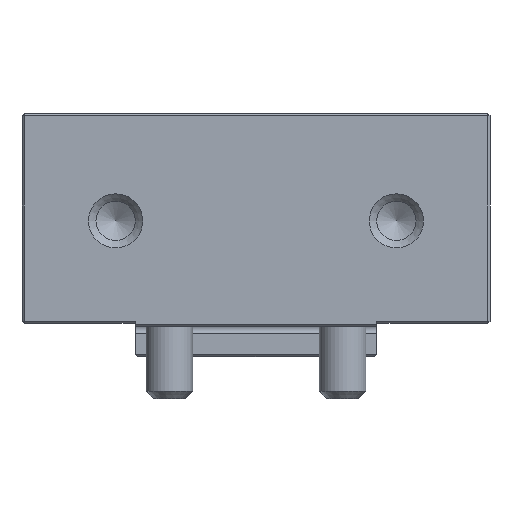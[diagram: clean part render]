
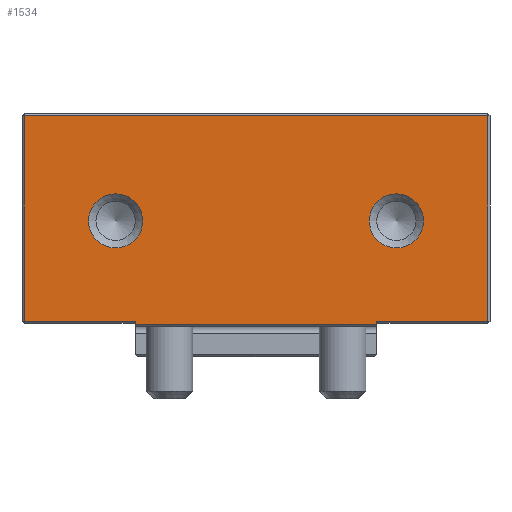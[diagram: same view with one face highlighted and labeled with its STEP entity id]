
A CAD part, front view. The second image highlights one B-rep face of the part: STEP entity #1534.
In plain terms, the highlighted planar face has unit normal (0, -1, 0).
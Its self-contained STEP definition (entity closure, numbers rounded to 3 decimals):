
#1534=ADVANCED_FACE('',(#4082,#4084,#4086),#4088,.T.);
#4082=FACE_BOUND('',#4083,.T.);
#4083=EDGE_LOOP('',(#5749,#5750,#5751,#5752,#5753,#5754,#5755,#5756));
#4084=FACE_BOUND('',#4085,.T.);
#4085=EDGE_LOOP('',(#5757));
#4086=FACE_BOUND('',#4087,.T.);
#4087=EDGE_LOOP('',(#5758));
#4088=PLANE('',#4089);
#4089=AXIS2_PLACEMENT_3D('',#4090,#4091,#4092);
#4090=CARTESIAN_POINT('',(-50.,-32.,0.));
#4091=DIRECTION('',(0.,-1.,0.));
#4092=DIRECTION('',(1.,0.,0.));
#5749=ORIENTED_EDGE('',*,*,#6512,.F.);
#5750=ORIENTED_EDGE('',*,*,#6513,.T.);
#5751=ORIENTED_EDGE('',*,*,#6497,.T.);
#5752=ORIENTED_EDGE('',*,*,#6483,.T.);
#5753=ORIENTED_EDGE('',*,*,#6501,.T.);
#5754=ORIENTED_EDGE('',*,*,#6514,.T.);
#5755=ORIENTED_EDGE('',*,*,#6515,.T.);
#5756=ORIENTED_EDGE('',*,*,#6516,.F.);
#5757=ORIENTED_EDGE('',*,*,#6517,.T.);
#5758=ORIENTED_EDGE('',*,*,#6518,.T.);
#6483=EDGE_CURVE('',#7206,#7207,#7208,.F.);
#6497=EDGE_CURVE('',#7212,#7206,#7233,.F.);
#6501=EDGE_CURVE('',#7207,#7237,#7240,.F.);
#6512=EDGE_CURVE('',#7260,#7261,#7262,.T.);
#6513=EDGE_CURVE('',#7260,#7212,#7263,.F.);
#6514=EDGE_CURVE('',#7237,#7264,#7265,.F.);
#6515=EDGE_CURVE('',#7264,#7266,#7267,.T.);
#6516=EDGE_CURVE('',#7261,#7266,#7268,.T.);
#6517=EDGE_CURVE('',#7269,#7269,#7270,.F.);
#6518=EDGE_CURVE('',#7271,#7271,#7272,.F.);
#7206=VERTEX_POINT('',#9663);
#7207=VERTEX_POINT('',#9664);
#7208=LINE('',#9665,#9666);
#7212=VERTEX_POINT('',#9675);
#7233=LINE('',#9720,#9721);
#7237=VERTEX_POINT('',#9731);
#7240=LINE('',#9736,#9737);
#7260=VERTEX_POINT('',#9780);
#7261=VERTEX_POINT('',#9781);
#7262=LINE('',#9782,#9783);
#7263=LINE('',#9785,#9786);
#7264=VERTEX_POINT('',#9788);
#7265=LINE('',#9789,#9790);
#7266=VERTEX_POINT('',#9792);
#7267=LINE('',#9793,#9794);
#7268=LINE('',#9796,#9797);
#7269=VERTEX_POINT('',#9799);
#7270=CIRCLE('',#9800,5.788);
#7271=VERTEX_POINT('',#9804);
#7272=CIRCLE('',#9805,5.788);
#9663=CARTESIAN_POINT('',(-25.75,-32.,6.9));
#9664=CARTESIAN_POINT('',(25.75,-32.,6.9));
#9665=CARTESIAN_POINT('',(25.75,-32.,6.9));
#9666=VECTOR('',#9667,1.);
#9667=DIRECTION('',(-1.,0.,0.));
#9675=CARTESIAN_POINT('',(-25.75,-32.,7.5));
#9720=CARTESIAN_POINT('',(-25.75,-32.,6.9));
#9721=VECTOR('',#9722,1.);
#9722=DIRECTION('',(0.,0.,1.));
#9731=CARTESIAN_POINT('',(25.75,-32.,7.5));
#9736=CARTESIAN_POINT('',(25.75,-32.,7.5));
#9737=VECTOR('',#9738,1.);
#9738=DIRECTION('',(0.,0.,-1.));
#9780=CARTESIAN_POINT('',(-49.5,-32.,7.5));
#9781=CARTESIAN_POINT('',(-49.5,-32.,51.5));
#9782=CARTESIAN_POINT('',(-49.5,-32.,7.5));
#9783=VECTOR('',#9784,1.);
#9784=DIRECTION('',(0.,0.,1.));
#9785=CARTESIAN_POINT('',(-25.75,-32.,7.5));
#9786=VECTOR('',#9787,1.);
#9787=DIRECTION('',(-1.,0.,0.));
#9788=CARTESIAN_POINT('',(49.5,-32.,7.5));
#9789=CARTESIAN_POINT('',(49.5,-32.,7.5));
#9790=VECTOR('',#9791,1.);
#9791=DIRECTION('',(-1.,0.,0.));
#9792=CARTESIAN_POINT('',(49.5,-32.,51.5));
#9793=CARTESIAN_POINT('',(49.5,-32.,7.5));
#9794=VECTOR('',#9795,1.);
#9795=DIRECTION('',(0.,0.,1.));
#9796=CARTESIAN_POINT('',(-49.5,-32.,51.5));
#9797=VECTOR('',#9798,1.);
#9798=DIRECTION('',(1.,0.,0.));
#9799=CARTESIAN_POINT('',(35.788,-32.,29.));
#9800=AXIS2_PLACEMENT_3D('',#9801,#9802,#9803);
#9801=CARTESIAN_POINT('',(30.,-32.,29.));
#9802=DIRECTION('',(0.,-1.,0.));
#9803=DIRECTION('',(1.,0.,0.));
#9804=CARTESIAN_POINT('',(-24.212,-32.,29.));
#9805=AXIS2_PLACEMENT_3D('',#9806,#9807,#9808);
#9806=CARTESIAN_POINT('',(-30.,-32.,29.));
#9807=DIRECTION('',(0.,-1.,0.));
#9808=DIRECTION('',(1.,0.,0.));
